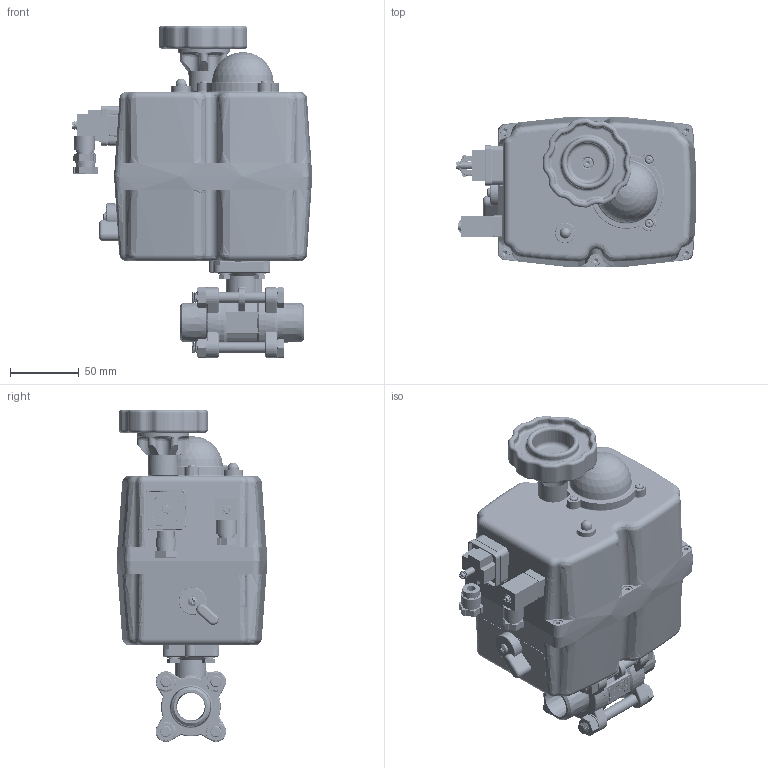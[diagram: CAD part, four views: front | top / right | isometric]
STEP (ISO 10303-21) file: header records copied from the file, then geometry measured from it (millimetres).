
FILE_DESCRIPTION((''),'2;1');
FILE_NAME('P:\CAD Daten\TA-Produkte\angetriebene Armaturen\Register 9\RB_791x\7914_020_S20.stp','2024-07-03T10:56:24',('Gi'),(''),'Autodesk Inventor 2012','Autodesk Inventor 2012','');
FILE_SCHEMA(('CONFIG_CONTROL_DESIGN'));
Length unit declared in the file: millimetre
Products named in the file (1): 7914_020_S20
Bounding box: 174.98 x 108.76 x 241.51 mm (x, y, z)
Volume: 13488.3 mm3; surface area: 297470.1 mm2
Topology: 44 solids, 49 shells, 4619 faces, 12099 edges, 7636 vertices
Faces by surface type: plane 1763, cylinder 1123, cone 667, bspline 481, torus 472, sphere 113
Full cylindrical faces by diameter (mm): 1.5 x10, 2.5 x4, 3 x47, 3.5 x13, 3.55 x8, 3.75 x2, 3.8 x1, 3.9 x8, 3.96 x8, 4 x34, 4.25 x2, 4.5 x8, 4.7 x4, 4.9 x2, 5 x13, 5.5 x10, 5.7 x3, 6 x3, 6.4 x4, 6.5 x7, 6.88 x4, 7 x8, 7.5 x7, 8 x21, 8.05 x1, 8.1 x1, 8.5 x8, 8.9 x2, 9 x3, 10 x3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
Entity records: 212813 total; most frequent: CARTESIAN_POINT 105048, ORIENTED_EDGE 21488, DIRECTION 21088, EDGE_CURVE 10744, AXIS2_PLACEMENT_3D 8296, VERTEX_POINT 7322, EDGE_LOOP 5909, FACE_OUTER_BOUND 4595
